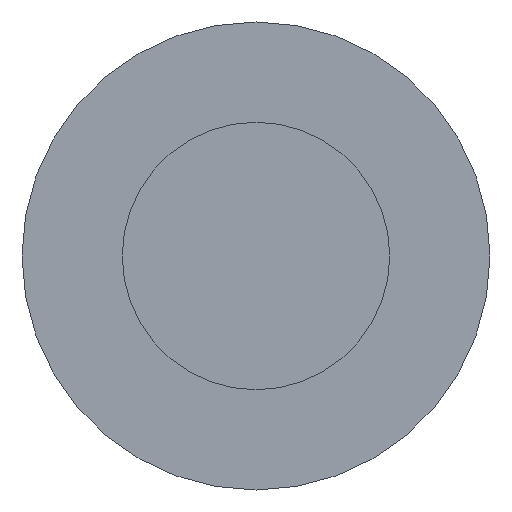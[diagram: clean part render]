
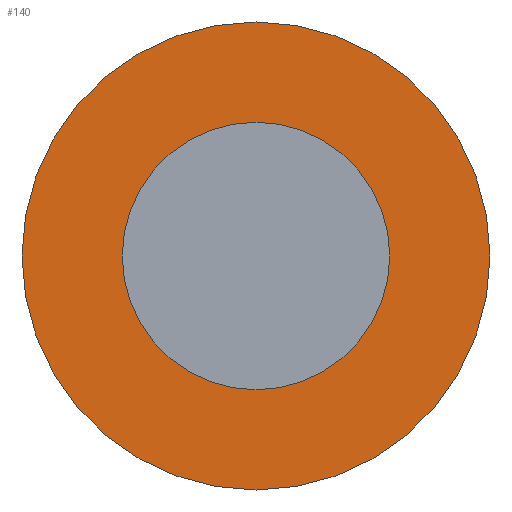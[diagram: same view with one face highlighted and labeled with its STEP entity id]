
A CAD part, left-side view. The second image highlights one B-rep face of the part: STEP entity #140.
In plain terms, the highlighted planar face has unit normal (-1, 0, 0).
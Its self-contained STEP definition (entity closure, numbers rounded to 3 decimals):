
#31 = CYLINDRICAL_SURFACE('',#32,7.);
#32 = AXIS2_PLACEMENT_3D('',#33,#34,#35);
#33 = CARTESIAN_POINT('',(68.,-47.5,-130.505));
#34 = DIRECTION('',(1.,0.,0.));
#35 = DIRECTION('',(-0.,0.,1.));
#56 = VERTEX_POINT('',#57);
#57 = CARTESIAN_POINT('',(68.,-47.5,-123.505));
#78 = EDGE_CURVE('',#56,#56,#79,.T.);
#79 = SURFACE_CURVE('',#80,(#85,#92),.PCURVE_S1.);
#80 = CIRCLE('',#81,7.);
#81 = AXIS2_PLACEMENT_3D('',#82,#83,#84);
#82 = CARTESIAN_POINT('',(68.,-47.5,-130.505));
#83 = DIRECTION('',(1.,0.,0.));
#84 = DIRECTION('',(-0.,0.,1.));
#85 = PCURVE('',#31,#86);
#86 = DEFINITIONAL_REPRESENTATION('',(#87),#91);
#87 = LINE('',#88,#89);
#88 = CARTESIAN_POINT('',(0.,0.));
#89 = VECTOR('',#90,1.);
#90 = DIRECTION('',(1.,0.));
#91 = ( GEOMETRIC_REPRESENTATION_CONTEXT(2) 
PARAMETRIC_REPRESENTATION_CONTEXT() REPRESENTATION_CONTEXT('2D SPACE',''
  ) );
#92 = PCURVE('',#93,#98);
#93 = PLANE('',#94);
#94 = AXIS2_PLACEMENT_3D('',#95,#96,#97);
#95 = CARTESIAN_POINT('',(68.,-47.5,-130.505));
#96 = DIRECTION('',(1.,0.,0.));
#97 = DIRECTION('',(-0.,0.,1.));
#98 = DEFINITIONAL_REPRESENTATION('',(#99),#103);
#99 = CIRCLE('',#100,7.);
#100 = AXIS2_PLACEMENT_2D('',#101,#102);
#101 = CARTESIAN_POINT('',(0.,0.));
#102 = DIRECTION('',(1.,0.));
#103 = ( GEOMETRIC_REPRESENTATION_CONTEXT(2) 
PARAMETRIC_REPRESENTATION_CONTEXT() REPRESENTATION_CONTEXT('2D SPACE',''
  ) );
#140 = ADVANCED_FACE('',(#141,#144),#93,.F.);
#141 = FACE_BOUND('',#142,.F.);
#142 = EDGE_LOOP('',(#143));
#143 = ORIENTED_EDGE('',*,*,#78,.T.);
#144 = FACE_BOUND('',#145,.F.);
#145 = EDGE_LOOP('',(#146));
#146 = ORIENTED_EDGE('',*,*,#147,.F.);
#147 = EDGE_CURVE('',#148,#148,#150,.T.);
#148 = VERTEX_POINT('',#149);
#149 = CARTESIAN_POINT('',(68.,-47.5,-126.505));
#150 = SURFACE_CURVE('',#151,(#156,#163),.PCURVE_S1.);
#151 = CIRCLE('',#152,4.);
#152 = AXIS2_PLACEMENT_3D('',#153,#154,#155);
#153 = CARTESIAN_POINT('',(68.,-47.5,-130.505));
#154 = DIRECTION('',(1.,0.,0.));
#155 = DIRECTION('',(-0.,0.,1.));
#156 = PCURVE('',#93,#157);
#157 = DEFINITIONAL_REPRESENTATION('',(#158),#162);
#158 = CIRCLE('',#159,4.);
#159 = AXIS2_PLACEMENT_2D('',#160,#161);
#160 = CARTESIAN_POINT('',(0.,0.));
#161 = DIRECTION('',(1.,0.));
#162 = ( GEOMETRIC_REPRESENTATION_CONTEXT(2) 
PARAMETRIC_REPRESENTATION_CONTEXT() REPRESENTATION_CONTEXT('2D SPACE',''
  ) );
#163 = PCURVE('',#164,#169);
#164 = CYLINDRICAL_SURFACE('',#165,4.);
#165 = AXIS2_PLACEMENT_3D('',#166,#167,#168);
#166 = CARTESIAN_POINT('',(49.5,-47.5,-130.505));
#167 = DIRECTION('',(1.,0.,0.));
#168 = DIRECTION('',(-0.,0.,1.));
#169 = DEFINITIONAL_REPRESENTATION('',(#170),#174);
#170 = LINE('',#171,#172);
#171 = CARTESIAN_POINT('',(0.,18.5));
#172 = VECTOR('',#173,1.);
#173 = DIRECTION('',(1.,0.));
#174 = ( GEOMETRIC_REPRESENTATION_CONTEXT(2) 
PARAMETRIC_REPRESENTATION_CONTEXT() REPRESENTATION_CONTEXT('2D SPACE',''
  ) );
